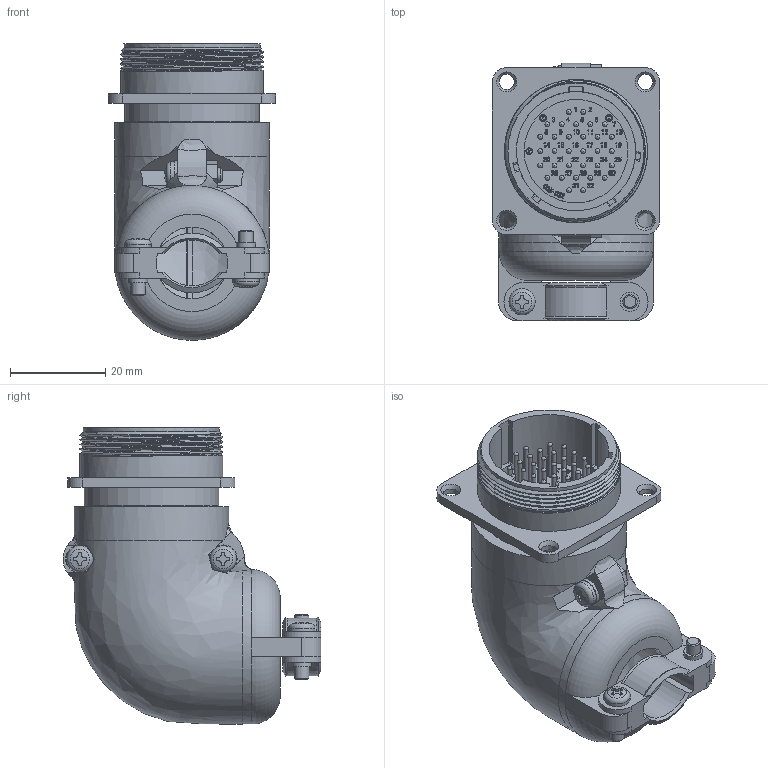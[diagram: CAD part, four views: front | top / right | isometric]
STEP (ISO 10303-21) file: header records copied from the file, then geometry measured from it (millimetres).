
FILE_DESCRIPTION (( 'STEP AP203' ), '1' );
FILE_NAME ('JMWL2532M-D.STEP', '2021-06-30T08:48:36', ( '' ), ( '' ), 'SwSTEP 2.0', 'SolidWorks 2018', '' );
FILE_SCHEMA (( 'CONFIG_CONTROL_DESIGN' ));
Length unit declared in the file: millimetre
Products named in the file (1): JMWL2532M-D
Bounding box: 35 x 53.98 x 62.09 mm (x, y, z)
Volume: 21419.7 mm3; surface area: 19919.4 mm2
Topology: 1 solids, 3 shells, 2972 faces, 8243 edges, 5446 vertices
Faces by surface type: bspline 1454, plane 1145, cylinder 250, cone 66, sphere 36, torus 21
Full cylindrical faces by diameter (mm): 1 x32, 1.1 x32, 1.2 x3, 1.4 x4, 1.55 x32, 1.6 x1, 2.4 x4, 3 x8, 3.2 x4, 3.3 x2, 3.5 x2, 4 x2, 5.5 x2, 15 x1, 21.3 x1, 21.7 x1, 23.8 x1, 25 x1, 26.2 x1, 28.2 x1, 28.5 x1, 29.96 x4, 32.4 x1
Entity records: 139489 total; most frequent: CARTESIAN_POINT 75545, ORIENTED_EDGE 15724, DIRECTION 8255, EDGE_CURVE 7862, VERTEX_POINT 5299, LINE 4189, VECTOR 4189, EDGE_LOOP 3373
